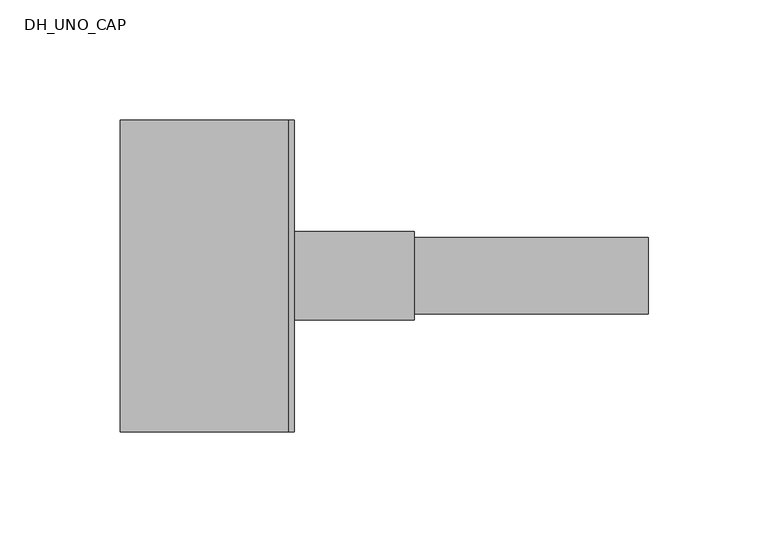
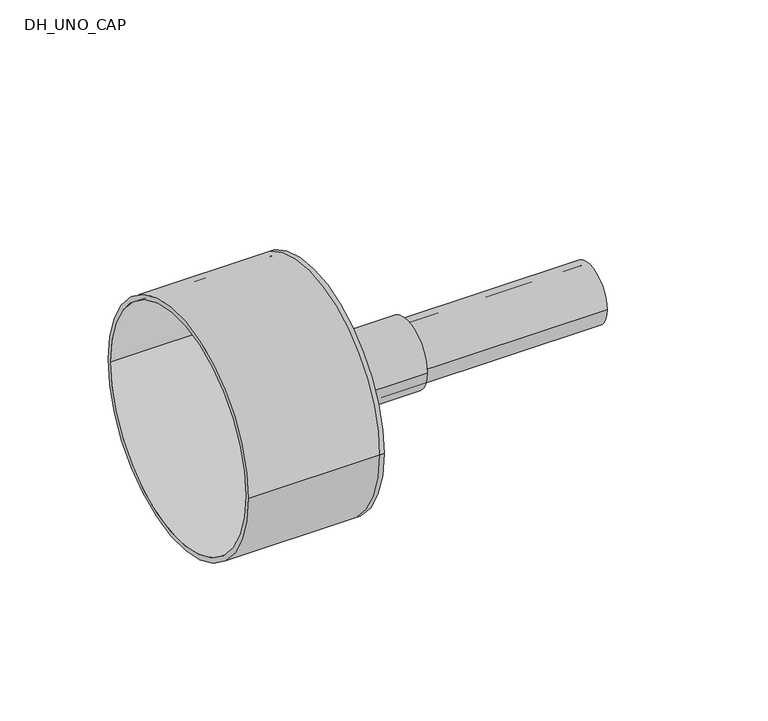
"""IFC4 building model written with IfcOpenShell, lengths in millimetres: pipe fitting geometry, DH_UNO_CAP : RAUVIPEX UNO + 11 Heating - Schrink Cap."""

from ifc_helpers import new_model, si_unit, point, frame, origin, origin_2d, place, context, project, spatial, polyline, circle_curve, trimmed, segment, composite_curve, outline, extrude, source, transform, mapped, element, save
from ifc_brep_helpers import plane_surface, cylinder_surface, revolved_surface, advanced_brep


def dh_uno_cap_fdaf2922(model_context):
    return source(origin(), model_context, "Body", "SolidModel", [
        extrude(outline(composite_curve([segment(trimmed(circle_curve(origin_2d(), 16.0), [point((-16.0, 0.0))], [point((16.0, 0.0))], False, "CARTESIAN"), True, "CONTINUOUS"), segment(trimmed(circle_curve(origin_2d(), 16.0), [point((16.0, 0.0))], [point((-16.0, 0.0))], False, "CARTESIAN"), True, "CONTINUOUS")], self_intersect=False), holes=[composite_curve([segment(trimmed(circle_curve(origin_2d(), 13.1), [point((-13.1, 0.0))], [point((13.1, 0.0))], True, "CARTESIAN"), True, "CONTINUOUS"), segment(trimmed(circle_curve(origin_2d(), 13.1), [point((13.1, 0.0))], [point((-13.1, 0.0))], True, "CARTESIAN"), True, "CONTINUOUS")], self_intersect=False)]), frame((0.0, 0.0, 0.0), z_axis=(1.0, 0.0, 0.0), x_axis=(0.0, 1.0, 0.0)), (0.0, 0.0, 1.0), 150.0),
        advanced_brep(
        [(-70.0, -65.0, 0.0), (-70.0, 65.0, 0.0), (-70.0, -62.5, 0.0), (-70.0, 62.5, 0.0), (0.0, -62.5, 0.0), (0.0, 62.5, 0.0), (0.0, -65.0, 0.0), (0.0, 65.0, 0.0), (0.0, 16.0, 0.0), (0.0, -16.0, 0.0), (2.5, -65.0, 0.0), (2.5, 65.0, 0.0), (2.5, -16.0, 0.0), (2.5, 16.0, 0.0)],
        [
            (0, 1, circle_curve(frame((-70.0, 0.0, 0.0), z_axis=(-1.0, 0.0, 0.0), x_axis=(0.0, 1.0, 0.0)), 65.0)),
            (1, 0, circle_curve(frame((-70.0, 0.0, 0.0), z_axis=(-1.0, 0.0, 0.0), x_axis=(0.0, 1.0, 0.0)), 65.0)),
            (2, 3, circle_curve(frame((-70.0, 0.0, 0.0), z_axis=(1.0, 0.0, 0.0), x_axis=(0.0, 1.0, 0.0)), 62.5)),
            (3, 2, circle_curve(frame((-70.0, 0.0, 0.0), z_axis=(1.0, 0.0, 0.0), x_axis=(0.0, 1.0, 0.0)), 62.5)),
            (2, 4),
            (4, 5, circle_curve(frame((0.0, 0.0, 0.0), z_axis=(1.0, 0.0, 0.0), x_axis=(0.0, 1.0, 0.0)), 62.5)),
            (5, 3),
            (5, 4, circle_curve(frame((0.0, 0.0, 0.0), z_axis=(1.0, 0.0, 0.0), x_axis=(0.0, 1.0, 0.0)), 62.5)),
            (0, 6),
            (6, 7, circle_curve(frame((0.0, 0.0, 0.0), z_axis=(-1.0, 0.0, 0.0), x_axis=(0.0, 1.0, 0.0)), 65.0)),
            (7, 1),
            (7, 6, circle_curve(frame((0.0, 0.0, 0.0), z_axis=(-1.0, 0.0, 0.0), x_axis=(0.0, 1.0, 0.0)), 65.0)),
            (8, 9, circle_curve(frame((0.0, 0.0, 0.0), z_axis=(1.0, 0.0, 0.0), x_axis=(0.0, 1.0, 0.0)), 16.0)),
            (9, 8, circle_curve(frame((0.0, 0.0, 0.0), z_axis=(1.0, 0.0, 0.0), x_axis=(0.0, 1.0, 0.0)), 16.0)),
            (10, 11, circle_curve(frame((2.5, 0.0, 0.0), z_axis=(1.0, 0.0, 0.0), x_axis=(0.0, 1.0, 0.0)), 65.0)),
            (11, 10, circle_curve(frame((2.5, 0.0, 0.0), z_axis=(1.0, 0.0, 0.0), x_axis=(0.0, 1.0, 0.0)), 65.0)),
            (12, 13, circle_curve(frame((2.5, 0.0, 0.0), z_axis=(-1.0, 0.0, 0.0), x_axis=(0.0, 1.0, 0.0)), 16.0)),
            (13, 12, circle_curve(frame((2.5, 0.0, 0.0), z_axis=(-1.0, 0.0, 0.0), x_axis=(0.0, 1.0, 0.0)), 16.0)),
            (11, 7),
            (6, 10),
            (8, 13),
            (12, 9),
        ],
        [
            plane_surface(frame((-70.0, 0.0, 0.0), z_axis=(-1.0, 0.0, 0.0), x_axis=(0.0, 0.0, 1.0))),
            revolved_surface(polyline([(0.0, 62.5, 0.0), (-70.0, 62.5, 0.0)]), (-70.0, 0.0, 0.0), (1.0, 0.0, 0.0)),
            cylinder_surface(frame((-70.0, 0.0, 0.0), z_axis=(-1.0, 0.0, 0.0), x_axis=(0.0, 1.0, 0.0)), 65.0),
            plane_surface(frame((0.0, 0.0, 0.0), z_axis=(-1.0, 0.0, 0.0), x_axis=(0.0, 0.0, 1.0))),
            plane_surface(frame((2.5, 0.0, 0.0), z_axis=(1.0, 0.0, 0.0), x_axis=(0.0, 0.0, 1.0))),
            cylinder_surface(frame((0.0, 0.0, 0.0), z_axis=(-1.0, 0.0, 0.0), x_axis=(0.0, 1.0, 0.0)), 65.0),
            revolved_surface(polyline([(0.0, 16.0, 0.0), (2.5, 16.0, 0.0)]), (0.0, 0.0, 0.0), (-1.0, 0.0, 0.0)),
        ],
        [
            (0, [[1, 2], [3, 4]]),
            (1, [[-3, 5, 6, 7]]),
            (1, [[-4, -7, 8, -5]]),
            (2, [[-1, 9, 10, 11]]),
            (2, [[-2, -11, 12, -9]]),
            (3, [[-6, -8], [13, 14]]),
            (4, [[15, 16], [17, 18]]),
            (5, [[-16, 19, -10, 20]]),
            (5, [[-15, -20, -12, -19]]),
            (6, [[21, -17, 22, -13]]),
            (6, [[-21, -14, -22, -18]]),
        ],
    ),
        extrude(outline(composite_curve([segment(trimmed(circle_curve(origin_2d(), 18.5), [point((-18.5, 0.0))], [point((18.5, 0.0))], False, "CARTESIAN"), True, "CONTINUOUS"), segment(trimmed(circle_curve(origin_2d(), 18.5), [point((18.5, 0.0))], [point((-18.5, 0.0))], False, "CARTESIAN"), True, "CONTINUOUS")], self_intersect=False), holes=[composite_curve([segment(trimmed(circle_curve(origin_2d(), 16.0), [point((-16.0, 0.0))], [point((16.0, 0.0))], True, "CARTESIAN"), True, "CONTINUOUS"), segment(trimmed(circle_curve(origin_2d(), 16.0), [point((16.0, 0.0))], [point((-16.0, 0.0))], True, "CARTESIAN"), True, "CONTINUOUS")], self_intersect=False)]), frame((2.5, 0.0, 0.0), z_axis=(1.0, 0.0, 0.0), x_axis=(0.0, 1.0, 0.0)), (0.0, 0.0, 1.0), 50.0),
    ])


if __name__ == "__main__":
    model = new_model("IFC4")
    model_context = context("Model", 3, world=origin())
    ifc_project = project(units=[si_unit("LENGTHUNIT", "METRE", prefix="MILLI")], contexts=[model_context])
    site = spatial("IfcSite", under=ifc_project)
    building = spatial("IfcBuilding", under=site)
    placement = place(None, origin())
    dh_uno_cap_shape = dh_uno_cap_fdaf2922(model_context)
    element("IfcPipeFitting", 1, ObjectType="DH_UNO_CAP : RAUVIPEX UNO + 11 Heating - Schrink Cap", at=placement, inside=building, context=model_context, shape_type="MappedRepresentation", body=[
        mapped(dh_uno_cap_shape, transform((0.0, 0.0, 0.0), x_axis=(1.0, 0.0, 0.0), y_axis=(0.0, 1.0, 0.0), z_axis=(0.0, 0.0, 1.0))),
    ])
    save(model, "model.ifc")
